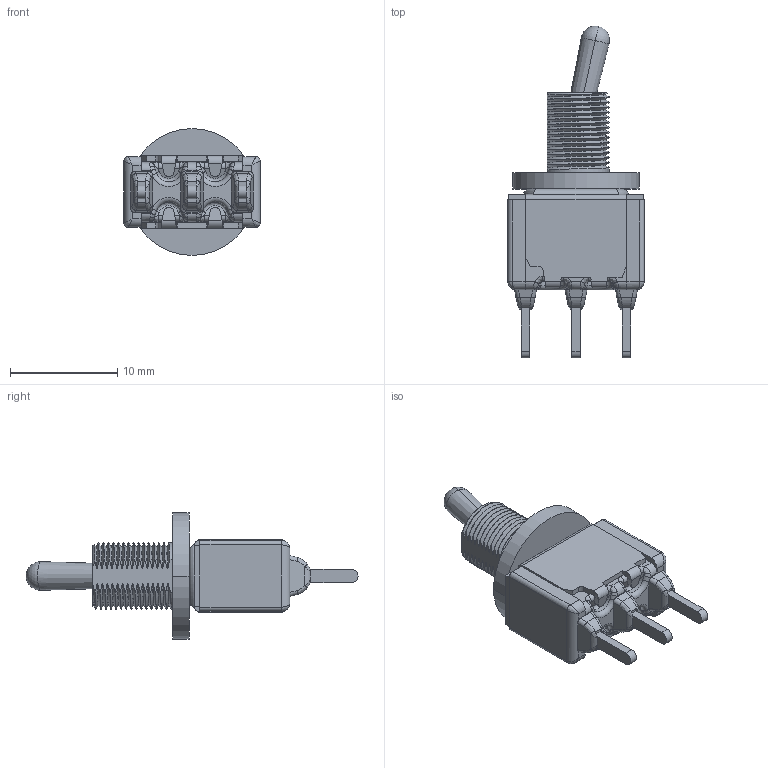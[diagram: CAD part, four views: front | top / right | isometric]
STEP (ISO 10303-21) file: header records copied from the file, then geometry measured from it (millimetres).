
FILE_DESCRIPTION((''),'2;1');
FILE_NAME('710XMCWC_SW0001_PRT','2011-10-14T',('jtrepler'),(''),'PRO/ENGINEER BY PARAMETRIC TECHNOLOGY CORPORATION, 2011080','PRO/ENGINEER BY PARAMETRIC TECHNOLOGY CORPORATION, 2011080','');
FILE_SCHEMA(('AUTOMOTIVE_DESIGN_CC2 { 1 2 10303 214 -1 1 5 2 }'));
Length unit declared in the file: inch
Products named in the file (1): 710XMCWC_SW0001_PRT
Bounding box: 12.7 x 30.94 x 11.81 mm (x, y, z)
Volume: 731 mm3; surface area: 2089.7 mm2
Topology: 2 solids, 2 shells, 562 faces, 1457 edges, 893 vertices
Faces by surface type: plane 276, cylinder 133, bspline 123, torus 14, cone 12, sphere 4
Entity records: 28684 total; most frequent: CARTESIAN_POINT 15989, ORIENTED_EDGE 2906, DIRECTION 2192, EDGE_CURVE 1453, VERTEX_POINT 893, VECTOR 862, LINE 862, AXIS2_PLACEMENT_3D 665
